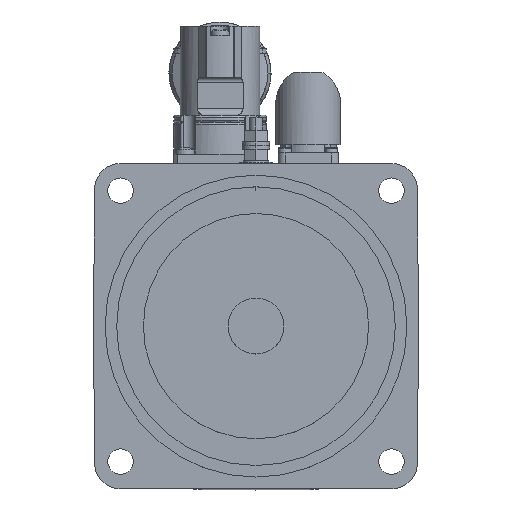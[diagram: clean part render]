
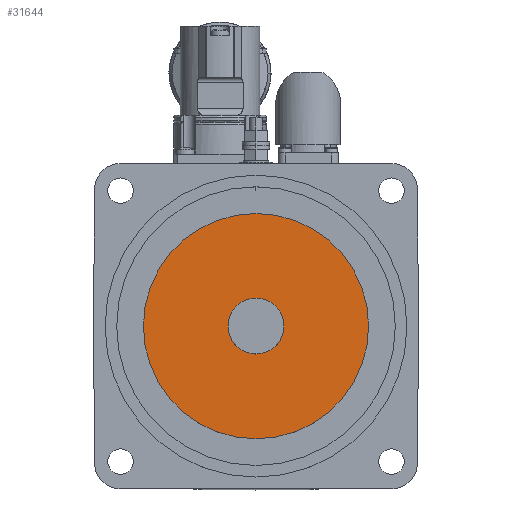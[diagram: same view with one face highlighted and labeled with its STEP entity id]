
A CAD part, top view. The second image highlights one B-rep face of the part: STEP entity #31644.
In plain terms, the highlighted planar face has unit normal (0, 0, 1).
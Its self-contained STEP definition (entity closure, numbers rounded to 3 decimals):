
#1706 = ORIENTED_EDGE ( 'NONE', *, *, #31057, .F. ) ;
#1708 = ORIENTED_EDGE ( 'NONE', *, *, #1926, .F. ) ;
#1710 = ORIENTED_EDGE ( 'NONE', *, *, #1925, .F. ) ;
#1712 = ORIENTED_EDGE ( 'NONE', *, *, #2032, .F. ) ;
#1925 = EDGE_CURVE ( 'NONE', #30189, #30195, #6509, .T. ) ;
#1926 = EDGE_CURVE ( 'NONE', #3448, #3431, #6511, .T. ) ;
#2032 = EDGE_CURVE ( 'NONE', #30195, #30189, #6683, .T. ) ;
#3431 = VERTEX_POINT ( 'NONE', #13002 ) ;
#3448 = VERTEX_POINT ( 'NONE', #13000 ) ;
#5172 = AXIS2_PLACEMENT_3D ( 'NONE', #7577, #7579, #7580 ) ;
#5174 = AXIS2_PLACEMENT_3D ( 'NONE', #7575, #7581, #7582 ) ;
#5212 = AXIS2_PLACEMENT_3D ( 'NONE', #7833, #7834, #7835 ) ;
#6509 = CIRCLE ( 'NONE', #5172, 48.5 ) ;
#6511 = CIRCLE ( 'NONE', #5174, 12. ) ;
#6683 = CIRCLE ( 'NONE', #5212, 48.5 ) ;
#7575 = CARTESIAN_POINT ( 'NONE',  ( 0., 0., -4.5 ) ) ;
#7577 = CARTESIAN_POINT ( 'NONE',  ( 0., 0., -4.5 ) ) ;
#7579 = DIRECTION ( 'NONE',  ( 0., 0., -1. ) ) ;
#7580 = DIRECTION ( 'NONE',  ( -1., 0., 0. ) ) ;
#7581 = DIRECTION ( 'NONE',  ( 0., 0., 1. ) ) ;
#7582 = DIRECTION ( 'NONE',  ( -1., 0., 0. ) ) ;
#7833 = CARTESIAN_POINT ( 'NONE',  ( 0., 0., -4.5 ) ) ;
#7834 = DIRECTION ( 'NONE',  ( 0., 0., -1. ) ) ;
#7835 = DIRECTION ( 'NONE',  ( -1., 0., 0. ) ) ;
#13000 = CARTESIAN_POINT ( 'NONE',  ( -12., 0., -4.5 ) ) ;
#13002 = CARTESIAN_POINT ( 'NONE',  ( 12., 0., -4.5 ) ) ;
#14784 = CIRCLE ( 'NONE', #17920, 12. ) ;
#15217 = EDGE_LOOP ( 'NONE', ( #1712, #1710 ) ) ;
#15220 = EDGE_LOOP ( 'NONE', ( #1708, #1706 ) ) ;
#16479 = CARTESIAN_POINT ( 'NONE',  ( 48.5, 0., -4.5 ) ) ;
#16485 = CARTESIAN_POINT ( 'NONE',  ( -48.5, 0., -4.5 ) ) ;
#17126 = CARTESIAN_POINT ( 'NONE',  ( 0., 0., -4.5 ) ) ;
#17147 = DIRECTION ( 'NONE',  ( 0., 0., 1. ) ) ;
#17148 = DIRECTION ( 'NONE',  ( -1., 0., 0. ) ) ;
#17920 = AXIS2_PLACEMENT_3D ( 'NONE', #17126, #17147, #17148 ) ;
#18543 = AXIS2_PLACEMENT_3D ( 'NONE', #22156, #22166, #22167 ) ;
#22156 = CARTESIAN_POINT ( 'NONE',  ( 0., 48.5, -4.5 ) ) ;
#22165 = PLANE ( 'NONE',  #18543 ) ;
#22166 = DIRECTION ( 'NONE',  ( 0., 0., -1. ) ) ;
#22167 = DIRECTION ( 'NONE',  ( -1., 0., 0. ) ) ;
#23119 = FACE_OUTER_BOUND ( 'NONE', #15217, .T. ) ;
#23121 = FACE_BOUND ( 'NONE', #15220, .T. ) ;
#30189 = VERTEX_POINT ( 'NONE', #16479 ) ;
#30195 = VERTEX_POINT ( 'NONE', #16485 ) ;
#31057 = EDGE_CURVE ( 'NONE', #3431, #3448, #14784, .T. ) ;
#31644 = ADVANCED_FACE ( 'NONE', ( #23119, #23121 ), #22165, .F. ) ;
